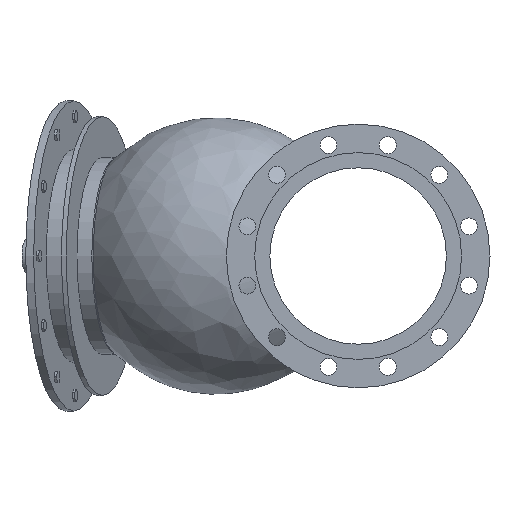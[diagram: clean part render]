
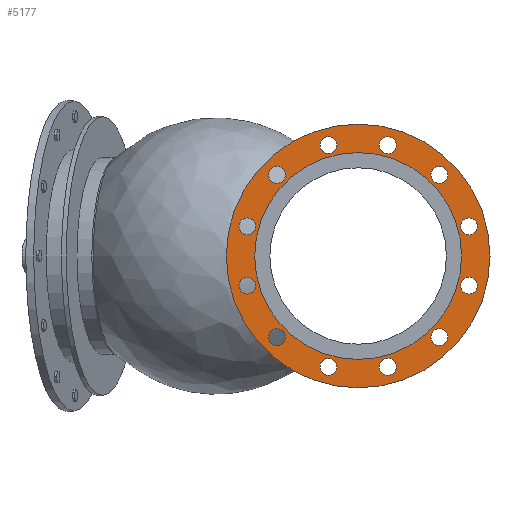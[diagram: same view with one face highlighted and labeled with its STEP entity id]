
A CAD part, left-side view. The second image highlights one B-rep face of the part: STEP entity #5177.
In plain terms, the highlighted planar face has unit normal (-1, 0, 0).
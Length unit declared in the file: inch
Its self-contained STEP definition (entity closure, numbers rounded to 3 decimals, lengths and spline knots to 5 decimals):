
#248=PLANE('',#5560);
#295=FACE_BOUND('',#950,.T.);
#296=FACE_BOUND('',#951,.T.);
#297=FACE_BOUND('',#952,.T.);
#298=FACE_BOUND('',#953,.T.);
#299=FACE_BOUND('',#954,.T.);
#300=FACE_BOUND('',#955,.T.);
#301=FACE_BOUND('',#956,.T.);
#302=FACE_BOUND('',#957,.T.);
#303=FACE_BOUND('',#958,.T.);
#304=FACE_BOUND('',#959,.T.);
#305=FACE_BOUND('',#960,.T.);
#306=FACE_BOUND('',#961,.T.);
#307=FACE_BOUND('',#962,.T.);
#646=FACE_OUTER_BOUND('',#949,.T.);
#949=EDGE_LOOP('',(#4531,#4532));
#950=EDGE_LOOP('',(#4533));
#951=EDGE_LOOP('',(#4534));
#952=EDGE_LOOP('',(#4535));
#953=EDGE_LOOP('',(#4536));
#954=EDGE_LOOP('',(#4537));
#955=EDGE_LOOP('',(#4538));
#956=EDGE_LOOP('',(#4539));
#957=EDGE_LOOP('',(#4540));
#958=EDGE_LOOP('',(#4541));
#959=EDGE_LOOP('',(#4542));
#960=EDGE_LOOP('',(#4543));
#961=EDGE_LOOP('',(#4544));
#962=EDGE_LOOP('',(#4545,#4546));
#2034=CIRCLE('',#5206,0.5118);
#2036=CIRCLE('',#5209,0.5118);
#2038=CIRCLE('',#5212,0.5118);
#2040=CIRCLE('',#5215,0.5118);
#2042=CIRCLE('',#5218,0.5118);
#2044=CIRCLE('',#5221,0.5118);
#2046=CIRCLE('',#5224,0.5118);
#2048=CIRCLE('',#5227,0.5118);
#2050=CIRCLE('',#5230,0.5118);
#2052=CIRCLE('',#5233,0.5118);
#2054=CIRCLE('',#5236,0.5118);
#2056=CIRCLE('',#5239,0.5118);
#2141=CIRCLE('',#5558,6.2992);
#2142=CIRCLE('',#5559,6.2992);
#2143=CIRCLE('',#5561,8.03);
#2144=CIRCLE('',#5562,8.03);
#2155=VERTEX_POINT('',#6885);
#2157=VERTEX_POINT('',#6891);
#2159=VERTEX_POINT('',#6897);
#2161=VERTEX_POINT('',#6903);
#2163=VERTEX_POINT('',#6909);
#2165=VERTEX_POINT('',#6915);
#2167=VERTEX_POINT('',#6921);
#2169=VERTEX_POINT('',#6927);
#2171=VERTEX_POINT('',#6933);
#2173=VERTEX_POINT('',#6939);
#2175=VERTEX_POINT('',#6945);
#2177=VERTEX_POINT('',#6951);
#2596=VERTEX_POINT('',#9179);
#2597=VERTEX_POINT('',#9180);
#2598=VERTEX_POINT('',#9185);
#2599=VERTEX_POINT('',#9186);
#2610=EDGE_CURVE('',#2155,#2155,#2034,.T.);
#2613=EDGE_CURVE('',#2157,#2157,#2036,.T.);
#2616=EDGE_CURVE('',#2159,#2159,#2038,.T.);
#2619=EDGE_CURVE('',#2161,#2161,#2040,.T.);
#2622=EDGE_CURVE('',#2163,#2163,#2042,.T.);
#2625=EDGE_CURVE('',#2165,#2165,#2044,.T.);
#2628=EDGE_CURVE('',#2167,#2167,#2046,.T.);
#2631=EDGE_CURVE('',#2169,#2169,#2048,.T.);
#2634=EDGE_CURVE('',#2171,#2171,#2050,.T.);
#2637=EDGE_CURVE('',#2173,#2173,#2052,.T.);
#2640=EDGE_CURVE('',#2175,#2175,#2054,.T.);
#2643=EDGE_CURVE('',#2177,#2177,#2056,.T.);
#3261=EDGE_CURVE('',#2596,#2597,#2141,.T.);
#3262=EDGE_CURVE('',#2597,#2596,#2142,.T.);
#3264=EDGE_CURVE('',#2598,#2599,#2143,.T.);
#3265=EDGE_CURVE('',#2599,#2598,#2144,.T.);
#4531=ORIENTED_EDGE('',*,*,#3264,.F.);
#4532=ORIENTED_EDGE('',*,*,#3265,.F.);
#4533=ORIENTED_EDGE('',*,*,#2610,.T.);
#4534=ORIENTED_EDGE('',*,*,#2613,.T.);
#4535=ORIENTED_EDGE('',*,*,#2616,.T.);
#4536=ORIENTED_EDGE('',*,*,#2619,.T.);
#4537=ORIENTED_EDGE('',*,*,#2622,.T.);
#4538=ORIENTED_EDGE('',*,*,#2625,.T.);
#4539=ORIENTED_EDGE('',*,*,#2628,.T.);
#4540=ORIENTED_EDGE('',*,*,#2631,.T.);
#4541=ORIENTED_EDGE('',*,*,#2634,.T.);
#4542=ORIENTED_EDGE('',*,*,#2637,.T.);
#4543=ORIENTED_EDGE('',*,*,#2640,.T.);
#4544=ORIENTED_EDGE('',*,*,#2643,.T.);
#4545=ORIENTED_EDGE('',*,*,#3261,.T.);
#4546=ORIENTED_EDGE('',*,*,#3262,.T.);
#5177=ADVANCED_FACE('',(#646,#295,#296,#297,#298,#299,#300,#301,#302,#303,
#304,#305,#306,#307),#248,.T.);
#5206=AXIS2_PLACEMENT_3D('',#6886,#5597,#5598);
#5209=AXIS2_PLACEMENT_3D('',#6892,#5604,#5605);
#5212=AXIS2_PLACEMENT_3D('',#6898,#5611,#5612);
#5215=AXIS2_PLACEMENT_3D('',#6904,#5618,#5619);
#5218=AXIS2_PLACEMENT_3D('',#6910,#5625,#5626);
#5221=AXIS2_PLACEMENT_3D('',#6916,#5632,#5633);
#5224=AXIS2_PLACEMENT_3D('',#6922,#5639,#5640);
#5227=AXIS2_PLACEMENT_3D('',#6928,#5646,#5647);
#5230=AXIS2_PLACEMENT_3D('',#6934,#5653,#5654);
#5233=AXIS2_PLACEMENT_3D('',#6940,#5660,#5661);
#5236=AXIS2_PLACEMENT_3D('',#6946,#5667,#5668);
#5239=AXIS2_PLACEMENT_3D('',#6952,#5674,#5675);
#5558=AXIS2_PLACEMENT_3D('',#9181,#6809,#6810);
#5559=AXIS2_PLACEMENT_3D('',#9182,#6811,#6812);
#5560=AXIS2_PLACEMENT_3D('',#9184,#6814,#6815);
#5561=AXIS2_PLACEMENT_3D('',#9187,#6816,#6817);
#5562=AXIS2_PLACEMENT_3D('',#9188,#6818,#6819);
#5597=DIRECTION('center_axis',(1.,0.,0.));
#5598=DIRECTION('ref_axis',(0.,0.5,0.866));
#5604=DIRECTION('center_axis',(1.,0.,0.));
#5605=DIRECTION('ref_axis',(0.,0.866,0.5));
#5611=DIRECTION('center_axis',(1.,0.,0.));
#5612=DIRECTION('ref_axis',(0.,1.,0.));
#5618=DIRECTION('center_axis',(1.,0.,0.));
#5619=DIRECTION('ref_axis',(0.,0.866,-0.5));
#5625=DIRECTION('center_axis',(1.,0.,0.));
#5626=DIRECTION('ref_axis',(0.,0.5,-0.866));
#5632=DIRECTION('center_axis',(1.,0.,0.));
#5633=DIRECTION('ref_axis',(0.,0.,-1.));
#5639=DIRECTION('center_axis',(1.,0.,0.));
#5640=DIRECTION('ref_axis',(0.,-0.5,-0.866));
#5646=DIRECTION('center_axis',(1.,0.,0.));
#5647=DIRECTION('ref_axis',(0.,-0.866,-0.5));
#5653=DIRECTION('center_axis',(1.,0.,0.));
#5654=DIRECTION('ref_axis',(0.,-1.,0.));
#5660=DIRECTION('center_axis',(1.,0.,0.));
#5661=DIRECTION('ref_axis',(0.,-0.866,0.5));
#5667=DIRECTION('center_axis',(1.,0.,0.));
#5668=DIRECTION('ref_axis',(0.,-0.5,0.866));
#5674=DIRECTION('center_axis',(1.,0.,0.));
#5675=DIRECTION('ref_axis',(0.,0.,1.));
#6809=DIRECTION('center_axis',(1.,0.,0.));
#6810=DIRECTION('ref_axis',(0.,0.,-1.));
#6811=DIRECTION('center_axis',(1.,0.,0.));
#6812=DIRECTION('ref_axis',(0.,0.,-1.));
#6814=DIRECTION('center_axis',(-1.,0.,0.));
#6815=DIRECTION('ref_axis',(0.,0.,1.));
#6816=DIRECTION('center_axis',(1.,0.,0.));
#6817=DIRECTION('ref_axis',(0.,0.,-1.));
#6818=DIRECTION('center_axis',(1.,0.,0.));
#6819=DIRECTION('ref_axis',(0.,0.,-1.));
#6885=CARTESIAN_POINT('',(-11.79189,4.6855,-5.38464));
#6886=CARTESIAN_POINT('Origin',(-11.79189,4.9414,-4.9414));
#6891=CARTESIAN_POINT('',(-11.79189,1.36545,-7.00598));
#6892=CARTESIAN_POINT('Origin',(-11.79189,1.80868,-6.75008));
#6897=CARTESIAN_POINT('',(-11.79189,-2.32048,-6.75008));
#6898=CARTESIAN_POINT('Origin',(-11.79189,-1.80868,-6.75008));
#6903=CARTESIAN_POINT('',(-11.79189,-5.38464,-4.6855));
#6904=CARTESIAN_POINT('Origin',(-11.79189,-4.9414,-4.9414));
#6909=CARTESIAN_POINT('',(-11.79189,-7.00598,-1.36545));
#6910=CARTESIAN_POINT('Origin',(-11.79189,-6.75008,-1.80868));
#6915=CARTESIAN_POINT('',(-11.79189,-6.75008,2.32048));
#6916=CARTESIAN_POINT('Origin',(-11.79189,-6.75008,1.80868));
#6921=CARTESIAN_POINT('',(-11.79189,-4.6855,5.38464));
#6922=CARTESIAN_POINT('Origin',(-11.79189,-4.9414,4.9414));
#6927=CARTESIAN_POINT('',(-11.79189,-1.36545,7.00598));
#6928=CARTESIAN_POINT('Origin',(-11.79189,-1.80868,6.75008));
#6933=CARTESIAN_POINT('',(-11.79189,2.32048,6.75008));
#6934=CARTESIAN_POINT('Origin',(-11.79189,1.80868,6.75008));
#6939=CARTESIAN_POINT('',(-11.79189,5.38464,4.6855));
#6940=CARTESIAN_POINT('Origin',(-11.79189,4.9414,4.9414));
#6945=CARTESIAN_POINT('',(-11.79189,7.00598,1.36545));
#6946=CARTESIAN_POINT('Origin',(-11.79189,6.75008,1.80868));
#6951=CARTESIAN_POINT('',(-11.79189,6.75008,-2.32048));
#6952=CARTESIAN_POINT('Origin',(-11.79189,6.75008,-1.80868));
#9179=CARTESIAN_POINT('',(-11.79189,6.2992,0.));
#9180=CARTESIAN_POINT('',(-11.79189,-6.2992,0.));
#9181=CARTESIAN_POINT('Origin',(-11.79189,0.,0.));
#9182=CARTESIAN_POINT('Origin',(-11.79189,0.,0.));
#9184=CARTESIAN_POINT('Origin',(-11.79189,8.03,0.));
#9185=CARTESIAN_POINT('',(-11.79189,8.03,0.));
#9186=CARTESIAN_POINT('',(-11.79189,-8.03,0.));
#9187=CARTESIAN_POINT('Origin',(-11.79189,0.,0.));
#9188=CARTESIAN_POINT('Origin',(-11.79189,0.,0.));
